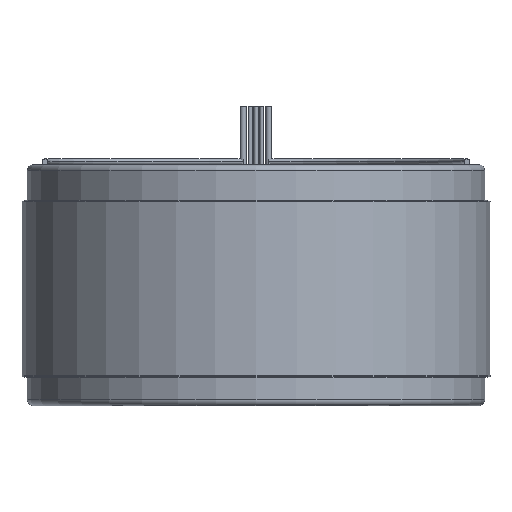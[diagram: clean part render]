
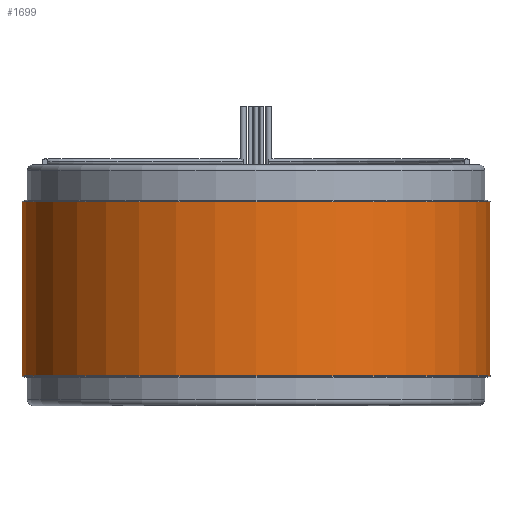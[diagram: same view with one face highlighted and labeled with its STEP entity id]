
A CAD part, front view. The second image highlights one B-rep face of the part: STEP entity #1699.
In plain terms, the highlighted cylindrical face has radius 101.6 mm (diameter 203.2 mm), a partial arc.
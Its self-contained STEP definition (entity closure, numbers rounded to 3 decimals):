
#35 = AXIS2_PLACEMENT_3D ( 'NONE', #2011, #811, #1782 ) ;
#394 = CARTESIAN_POINT ( 'NONE',  ( -101.6, 0., -37.744 ) ) ;
#434 = CARTESIAN_POINT ( 'NONE',  ( 101.6, 0., 37.744 ) ) ;
#501 = EDGE_CURVE ( 'NONE', #1007, #1904, #1255, .T. ) ;
#578 = DIRECTION ( 'NONE',  ( 1., 0., 0. ) ) ;
#609 = VECTOR ( 'NONE', #1552, 1000. ) ;
#802 = CARTESIAN_POINT ( 'NONE',  ( -101.6, 0., 37.744 ) ) ;
#811 = DIRECTION ( 'NONE',  ( 0., 0., -1. ) ) ;
#812 = VERTEX_POINT ( 'NONE', #434 ) ;
#825 = CARTESIAN_POINT ( 'NONE',  ( 101.6, 0., 37.744 ) ) ;
#826 = EDGE_CURVE ( 'NONE', #1904, #1983, #1891, .T. ) ;
#947 = CARTESIAN_POINT ( 'NONE',  ( 0., 0., -37.744 ) ) ;
#990 = EDGE_CURVE ( 'NONE', #812, #1983, #2188, .T. ) ;
#1007 = VERTEX_POINT ( 'NONE', #802 ) ;
#1057 = DIRECTION ( 'NONE',  ( 0., 0., -1. ) ) ;
#1139 = VECTOR ( 'NONE', #1057, 1000. ) ;
#1164 = ORIENTED_EDGE ( 'NONE', *, *, #826, .T. ) ;
#1255 = LINE ( 'NONE', #1978, #609 ) ;
#1476 = ORIENTED_EDGE ( 'NONE', *, *, #1677, .F. ) ;
#1552 = DIRECTION ( 'NONE',  ( 0., 0., -1. ) ) ;
#1554 = FACE_OUTER_BOUND ( 'NONE', #2101, .T. ) ;
#1677 = EDGE_CURVE ( 'NONE', #1007, #812, #2400, .T. ) ;
#1699 = ADVANCED_FACE ( 'NONE', ( #1554 ), #1706, .T. ) ;
#1706 = CYLINDRICAL_SURFACE ( 'NONE', #35, 101.6 ) ;
#1782 = DIRECTION ( 'NONE',  ( -1., 0., 0. ) ) ;
#1882 = ORIENTED_EDGE ( 'NONE', *, *, #990, .F. ) ;
#1891 = CIRCLE ( 'NONE', #2921, 101.6 ) ;
#1904 = VERTEX_POINT ( 'NONE', #394 ) ;
#1978 = CARTESIAN_POINT ( 'NONE',  ( -101.6, 0., 37.744 ) ) ;
#1983 = VERTEX_POINT ( 'NONE', #2147 ) ;
#2011 = CARTESIAN_POINT ( 'NONE',  ( 0., 0., 37.744 ) ) ;
#2034 = CARTESIAN_POINT ( 'NONE',  ( 0., 0., 37.744 ) ) ;
#2101 = EDGE_LOOP ( 'NONE', ( #1882, #1476, #2546, #1164 ) ) ;
#2147 = CARTESIAN_POINT ( 'NONE',  ( 101.6, 0., -37.744 ) ) ;
#2188 = LINE ( 'NONE', #825, #1139 ) ;
#2303 = AXIS2_PLACEMENT_3D ( 'NONE', #2034, #2734, #578 ) ;
#2400 = CIRCLE ( 'NONE', #2303, 101.6 ) ;
#2546 = ORIENTED_EDGE ( 'NONE', *, *, #501, .T. ) ;
#2613 = DIRECTION ( 'NONE',  ( 0., 0., 1. ) ) ;
#2734 = DIRECTION ( 'NONE',  ( 0., 0., 1. ) ) ;
#2869 = DIRECTION ( 'NONE',  ( 1., 0., 0. ) ) ;
#2921 = AXIS2_PLACEMENT_3D ( 'NONE', #947, #2613, #2869 ) ;
